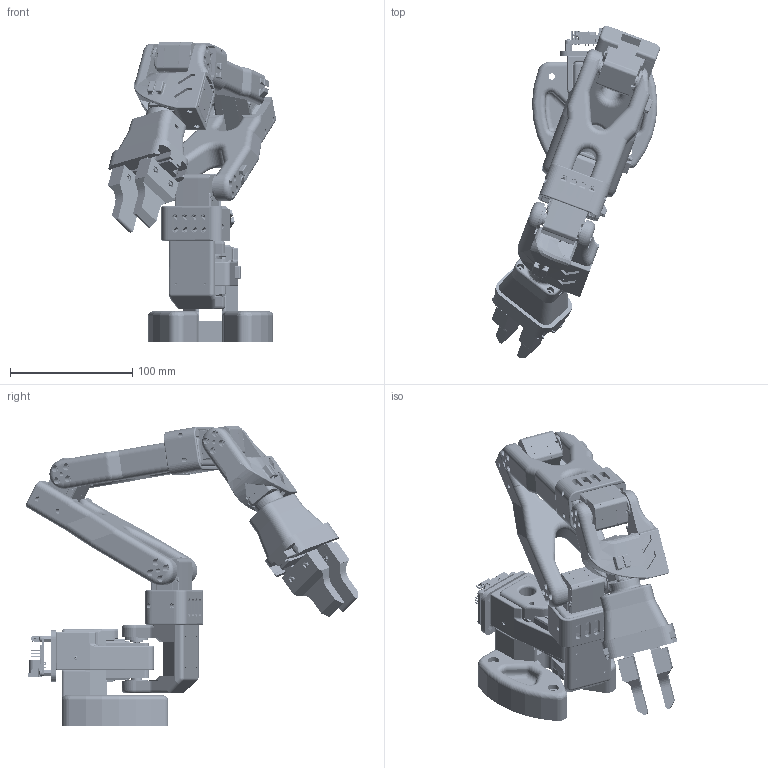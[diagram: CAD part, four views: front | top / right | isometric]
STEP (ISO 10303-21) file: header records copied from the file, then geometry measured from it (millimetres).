
FILE_DESCRIPTION(/* description */ (''),/* implementation_level */ '2;1');
FILE_NAME(/* name */ 'SO101 Assembly new.stp',/* time_stamp */ '2025-06-23T16:52:39+02:00',/* author */ ('R5800u'),/* organization */ (''),/* preprocessor_version */ 'ST-DEVELOPER v20',/* originating_system */ 'Autodesk Inventor 2025',/* authorisation */ '');
FILE_SCHEMA (('AUTOMOTIVE_DESIGN { 1 0 10303 214 3 1 1 }'));
Length unit declared in the file: millimetre
Products named in the file (207): SO101 Assembly; Base_SO101; Rotation_Pitch_SO101; Upper_arm_SO101; Parte6; Under_arm_SO101; Parte8; Base_08p; Motor_holder_SO101_Base; Parte12; Motor_holder_SO101_Wrist; Parte14; Wrist_Roll_Pitch_SO100; Parte16; CRFHTSTATI ANSI B18.6.4 - 1-42 x 3/16 Steel Grade 2 Plain; PCB; Board; C1; C2; C3; C4; C5; C7; C_0603; C_0603-7177_AF0_ASM; C_0603-683_AF0_ASM; C6; D2; DC1; dc-005-5a-20; H1; User_Library-DG350-3,5-02P; H3; H5; X2564WV-03-N0SN; R2; R0603; R_0603-3615_AF0_ASM; R_0603-3601_AF0_ASM; R3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
Assembly tree (316 placements, depth 7):
  SO101 Assembly
    Base_SO101
    Rotation_Pitch_SO101
    Upper_arm_SO101
      Parte6
    Under_arm_SO101
      Parte8
    Base_08p
    Motor_holder_SO101_Base
      Parte12
    Motor_holder_SO101_Wrist
      Parte14
    Wrist_Roll_Pitch_SO100
      Parte16
    CRFHTSTATI ANSI B18.6.4 - 1-42 x 3/16 Steel Grade 2 Plain  x4
    PCB
      Board
      C1
        User_Library-0603_SMD_Capacitor
      C2
        User_Library-0603_SMD_Capacitor
      C3
        User_Library-0603_SMD_Capacitor
      C4
        User_Library-0603_SMD_Capacitor
      C5
        User_Library-0603_SMD_Capacitor
      C7
        C_0603
          C_0603-7177_AF0_ASM
            C_0603-683_AF0_ASM
              2_1_200
              _1_1_20001
              3_1_2_A
      C6
        User_Library-0603_SMD_Capacitor
      D2
        SOD323
      DC1
        dc-005-5a-20
      H1
        User_Library-DG350-3,5-02P
      H3
        X2564WV-03-N0SN
      H5
        X2564WV-03-N0SN
      R2
        R0603
          R_0603-3615_AF0_ASM
            R_0603-3601_AF0_ASM
              _2_1_2_3_4_AF0
              _7_1_2_AF0
              5_1_2_3_400
      R3
        R0603_1
          R_0603-3615_AF0_ASM_1
            R_0603-3601_AF0_ASM_1
              _2_1_2_3_4_AF0
              _7_1_2_AF0
              5_1_2_3_400
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Bounding box: 137.41 x 271.44 x 245.48 mm (x, y, z)
Volume: 872740.7 mm3; surface area: 321283.6 mm2
Topology: 202 solids, 265 shells, 19577 faces, 53380 edges, 35151 vertices
Faces by surface type: plane 11386, cylinder 4483, bspline 2738, cone 364, torus 358, sphere 248
Full cylindrical faces by diameter (mm): 0.08 x1, 0.4 x1, 0.5 x2, 0.7 x12, 0.762 x2, 0.8 x2, 0.82 x6, 0.889 x11, 1 x14, 1.03 x6, 1.167 x3, 1.2 x5, 1.5 x7, 1.6 x60, 1.755 x1, 1.829 x4, 2 x17, 2.2 x36, 2.256 x4, 2.43 x4, 2.47 x1, 2.5 x171, 2.6 x5, 2.7 x5, 2.8 x2, 2.997 x4, 3 x10, 3.2 x34, 3.5 x16, 4 x8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
Entity records: 348872 total; most frequent: CARTESIAN_POINT 130667, ORIENTED_EDGE 45653, DIRECTION 41880, EDGE_CURVE 22827, LINE 15468, VECTOR 15468, VERTEX_POINT 14988, AXIS2_PLACEMENT_3D 13206
